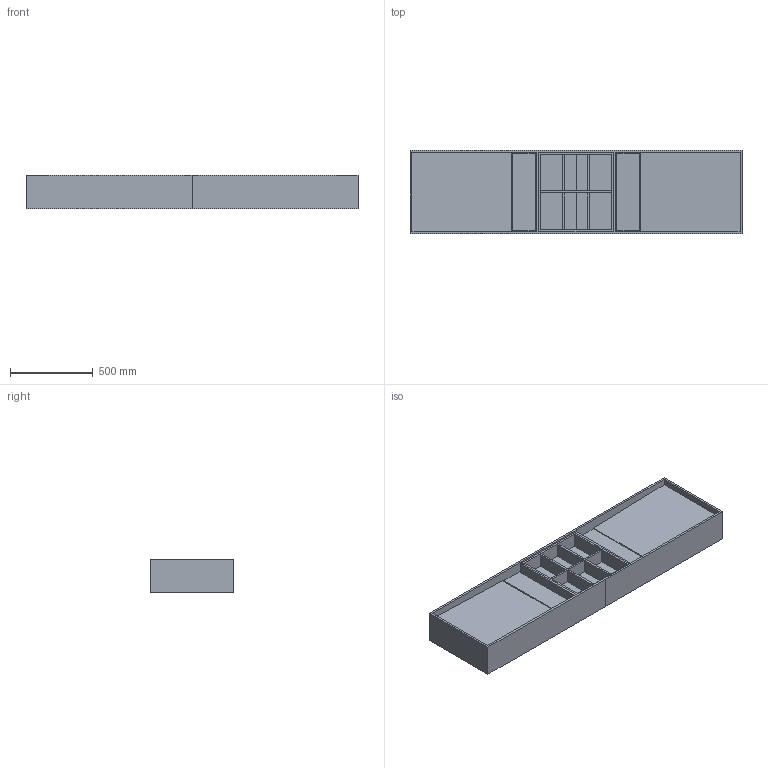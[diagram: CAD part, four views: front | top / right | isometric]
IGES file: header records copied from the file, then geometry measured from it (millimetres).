
Global section: file name: D:\Desktop\GIOVANNI\SCHEDE PRODOTTO\PIANI LAVABO\PARK PLACE\3D\MOMA DESIGN_PIANI LAVABO_PARK PLACE 1.igs; native system: Rhinoceros ( Jan 17 2018 ); preprocessor: Trout Lake IGES 012 Jan 17 2018; date: 230606.154335; units: millimetre
Bounding box: 2000 x 500 x 200 mm (x, y, z)
Surface area: 4467866 mm2 (no closed solid volume)
Topology: 0 solids, 0 shells, 95 faces, 438 edges, 438 vertices
Faces by surface type: bspline 95
